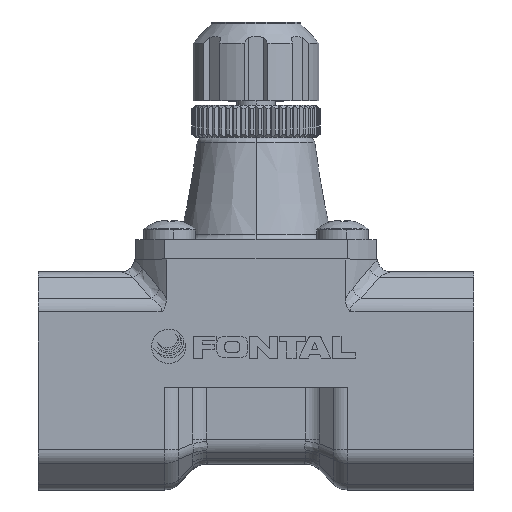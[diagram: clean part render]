
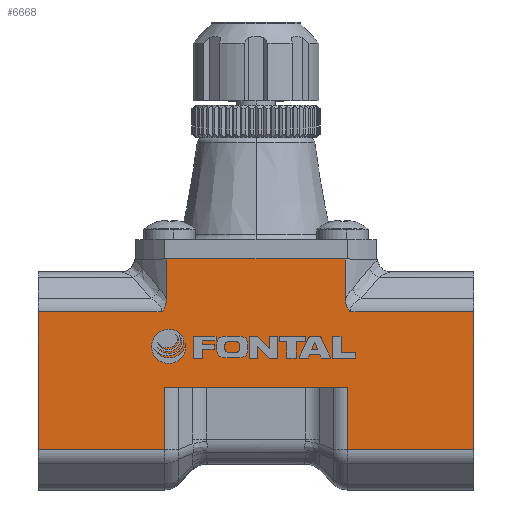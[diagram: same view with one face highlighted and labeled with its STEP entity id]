
A CAD part, top view. The second image highlights one B-rep face of the part: STEP entity #6668.
In plain terms, the highlighted planar face has unit normal (0, 0, 1).
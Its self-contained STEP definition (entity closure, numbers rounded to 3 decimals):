
#249 = LINE ( 'NONE', #10226, #14818 ) ;
#549 = LINE ( 'NONE', #3641, #1676 ) ;
#1056 = B_SPLINE_CURVE_WITH_KNOTS ( 'NONE', 3,
 ( #5082, #17772, #5019, #15030, #17892, #13412, #6263, #1950, #9252, #11977 ),
 .UNSPECIFIED., .F., .F.,
 ( 4, 2, 2, 2, 4 ),
 ( 0., 0., 0.001, 0.001, 0.002 ),
 .UNSPECIFIED. ) ;
#1220 = CARTESIAN_POINT ( 'NONE',  ( 34., 11.757, 17. ) ) ;
#1372 = DIRECTION ( 'NONE',  ( 1., 0., 0. ) ) ;
#1676 = VECTOR ( 'NONE', #2195, 1000. ) ;
#1950 = CARTESIAN_POINT ( 'NONE',  ( 14.017, 13.096, 17. ) ) ;
#1967 = ORIENTED_EDGE ( 'NONE', *, *, #3911, .T. ) ;
#2195 = DIRECTION ( 'NONE',  ( 0., 1., 0. ) ) ;
#2408 = CARTESIAN_POINT ( 'NONE',  ( 34., 11.757, 17. ) ) ;
#2474 = VERTEX_POINT ( 'NONE', #4490 ) ;
#2496 = CARTESIAN_POINT ( 'NONE',  ( -14.033, 13.098, 17. ) ) ;
#2523 = CARTESIAN_POINT ( 'NONE',  ( 13.964, 13.84, 17. ) ) ;
#2606 = DIRECTION ( 'NONE',  ( -1., 0., 0. ) ) ;
#2872 = LINE ( 'NONE', #1220, #17710 ) ;
#3099 = ORIENTED_EDGE ( 'NONE', *, *, #11670, .T. ) ;
#3510 = CARTESIAN_POINT ( 'NONE',  ( -13.964, 13.84, 17. ) ) ;
#3608 = EDGE_CURVE ( 'NONE', #14019, #2474, #8148, .T. ) ;
#3641 = CARTESIAN_POINT ( 'NONE',  ( 13.964, 10.26, 17. ) ) ;
#3800 = VERTEX_POINT ( 'NONE', #6195 ) ;
#3911 = EDGE_CURVE ( 'NONE', #3800, #16162, #16059, .T. ) ;
#4024 = LINE ( 'NONE', #14821, #5357 ) ;
#4321 = VECTOR ( 'NONE', #10240, 1000. ) ;
#4354 = VERTEX_POINT ( 'NONE', #18045 ) ;
#4378 = VECTOR ( 'NONE', #11718, 1000. ) ;
#4421 = DIRECTION ( 'NONE',  ( -1., 0., 0. ) ) ;
#4490 = CARTESIAN_POINT ( 'NONE',  ( 14.243, 0., 17. ) ) ;
#4626 = EDGE_CURVE ( 'NONE', #9403, #7832, #17146, .T. ) ;
#4672 = LINE ( 'NONE', #8960, #13624 ) ;
#4734 = FACE_OUTER_BOUND ( 'NONE', #10891, .T. ) ;
#4772 = VERTEX_POINT ( 'NONE', #11727 ) ;
#4825 = EDGE_CURVE ( 'NONE', #4354, #15117, #10155, .T. ) ;
#5019 = CARTESIAN_POINT ( 'NONE',  ( 14.547, 11.906, 17. ) ) ;
#5082 = CARTESIAN_POINT ( 'NONE',  ( 14.663, 11.757, 17. ) ) ;
#5357 = VECTOR ( 'NONE', #17804, 1000. ) ;
#5445 = CARTESIAN_POINT ( 'NONE',  ( -14.395, 12.142, 17. ) ) ;
#5566 = CARTESIAN_POINT ( 'NONE',  ( -13.978, 13.466, 17. ) ) ;
#5697 = EDGE_CURVE ( 'NONE', #16162, #15485, #17129, .T. ) ;
#5773 = CARTESIAN_POINT ( 'NONE',  ( -13.964, 10.26, 17. ) ) ;
#5866 = DIRECTION ( 'NONE',  ( 0., -1., 0. ) ) ;
#5940 = CARTESIAN_POINT ( 'NONE',  ( -14.243, -9.757, 17. ) ) ;
#6136 = EDGE_CURVE ( 'NONE', #9403, #4772, #249, .T. ) ;
#6153 = ORIENTED_EDGE ( 'NONE', *, *, #9270, .T. ) ;
#6195 = CARTESIAN_POINT ( 'NONE',  ( -34., 11.757, 17. ) ) ;
#6263 = CARTESIAN_POINT ( 'NONE',  ( 14.19, 12.561, 17. ) ) ;
#6491 = ORIENTED_EDGE ( 'NONE', *, *, #8526, .F. ) ;
#6668 = ADVANCED_FACE ( 'NONE', ( #4734 ), #12977, .T. ) ;
#6746 = CARTESIAN_POINT ( 'NONE',  ( -14.604, 11.83, 17. ) ) ;
#6956 = ORIENTED_EDGE ( 'NONE', *, *, #11627, .T. ) ;
#6996 = CARTESIAN_POINT ( 'NONE',  ( -14.443, 12.062, 17. ) ) ;
#7089 = EDGE_CURVE ( 'NONE', #7499, #3800, #18198, .T. ) ;
#7499 = VERTEX_POINT ( 'NONE', #17022 ) ;
#7620 = CARTESIAN_POINT ( 'NONE',  ( 14.663, 11.757, 17. ) ) ;
#7832 = VERTEX_POINT ( 'NONE', #3510 ) ;
#7920 = ORIENTED_EDGE ( 'NONE', *, *, #3608, .T. ) ;
#8148 = LINE ( 'NONE', #11780, #4378 ) ;
#8240 = CARTESIAN_POINT ( 'NONE',  ( -14.547, 11.906, 17. ) ) ;
#8267 = VECTOR ( 'NONE', #4421, 1000. ) ;
#8365 = ORIENTED_EDGE ( 'NONE', *, *, #10835, .T. ) ;
#8423 = CARTESIAN_POINT ( 'NONE',  ( -13.964, 13.84, 17. ) ) ;
#8526 = EDGE_CURVE ( 'NONE', #14807, #15117, #4024, .T. ) ;
#8680 = CARTESIAN_POINT ( 'NONE',  ( 0., 0., 17. ) ) ;
#8738 = ORIENTED_EDGE ( 'NONE', *, *, #4825, .T. ) ;
#8767 = CARTESIAN_POINT ( 'NONE',  ( 34., 11.757, 17. ) ) ;
#8788 = CARTESIAN_POINT ( 'NONE',  ( 34., -9.757, 17. ) ) ;
#8960 = CARTESIAN_POINT ( 'NONE',  ( -14.243, 0., 17. ) ) ;
#9045 = EDGE_CURVE ( 'NONE', #14807, #16143, #2872, .T. ) ;
#9252 = CARTESIAN_POINT ( 'NONE',  ( 13.964, 13.464, 17. ) ) ;
#9270 = EDGE_CURVE ( 'NONE', #2474, #4354, #13860, .T. ) ;
#9328 = EDGE_CURVE ( 'NONE', #15485, #14019, #4672, .T. ) ;
#9403 = VERTEX_POINT ( 'NONE', #11999 ) ;
#9499 = CARTESIAN_POINT ( 'NONE',  ( -34., 13., 17. ) ) ;
#9741 = ORIENTED_EDGE ( 'NONE', *, *, #9045, .T. ) ;
#10155 = LINE ( 'NONE', #17712, #13085 ) ;
#10226 = CARTESIAN_POINT ( 'NONE',  ( -19., 20., 17. ) ) ;
#10240 = DIRECTION ( 'NONE',  ( 1., 0., 0. ) ) ;
#10336 = ORIENTED_EDGE ( 'NONE', *, *, #4626, .T. ) ;
#10398 = VECTOR ( 'NONE', #10828, 1000. ) ;
#10542 = DIRECTION ( 'NONE',  ( 0., 1., 0. ) ) ;
#10828 = DIRECTION ( 'NONE',  ( 0., -1., 0. ) ) ;
#10835 = EDGE_CURVE ( 'NONE', #7832, #7499, #12110, .T. ) ;
#10891 = EDGE_LOOP ( 'NONE', ( #9741, #3099, #6956, #15484, #10336, #8365, #13184, #1967, #12856, #11229, #7920, #6153, #8738, #6491 ) ) ;
#11083 = CARTESIAN_POINT ( 'NONE',  ( -13.964, 13.652, 17. ) ) ;
#11229 = ORIENTED_EDGE ( 'NONE', *, *, #9328, .T. ) ;
#11412 = DIRECTION ( 'NONE',  ( 0., -1., 0. ) ) ;
#11607 = VECTOR ( 'NONE', #5866, 1000. ) ;
#11627 = EDGE_CURVE ( 'NONE', #13179, #4772, #549, .T. ) ;
#11670 = EDGE_CURVE ( 'NONE', #16143, #13179, #1056, .T. ) ;
#11683 = DIRECTION ( 'NONE',  ( 1., 0., 0. ) ) ;
#11718 = DIRECTION ( 'NONE',  ( 1., 0., 0. ) ) ;
#11727 = CARTESIAN_POINT ( 'NONE',  ( 13.964, 20., 17. ) ) ;
#11780 = CARTESIAN_POINT ( 'NONE',  ( 34., 0., 17. ) ) ;
#11977 = CARTESIAN_POINT ( 'NONE',  ( 13.964, 13.84, 17. ) ) ;
#11999 = CARTESIAN_POINT ( 'NONE',  ( -13.964, 20., 17. ) ) ;
#12110 = B_SPLINE_CURVE_WITH_KNOTS ( 'NONE', 3,
 ( #8423, #11083, #5566, #2496, #15413, #14023, #18518, #5445, #6996, #8240, #6746, #12709 ),
 .UNSPECIFIED., .F., .F.,
 ( 4, 2, 2, 2, 2, 4 ),
 ( 0., 0.001, 0.001, 0.002, 0.002, 0.002 ),
 .UNSPECIFIED. ) ;
#12709 = CARTESIAN_POINT ( 'NONE',  ( -14.663, 11.757, 17. ) ) ;
#12856 = ORIENTED_EDGE ( 'NONE', *, *, #5697, .T. ) ;
#12977 = PLANE ( 'NONE',  #16805 ) ;
#13007 = CARTESIAN_POINT ( 'NONE',  ( 14.243, -9.757, 17. ) ) ;
#13040 = DIRECTION ( 'NONE',  ( 0., 0., 1. ) ) ;
#13085 = VECTOR ( 'NONE', #15031, 1000. ) ;
#13158 = CARTESIAN_POINT ( 'NONE',  ( -14.243, 0., 17. ) ) ;
#13179 = VERTEX_POINT ( 'NONE', #2523 ) ;
#13184 = ORIENTED_EDGE ( 'NONE', *, *, #7089, .T. ) ;
#13412 = CARTESIAN_POINT ( 'NONE',  ( 14.263, 12.387, 17. ) ) ;
#13624 = VECTOR ( 'NONE', #10542, 1000. ) ;
#13860 = LINE ( 'NONE', #13007, #11607 ) ;
#14019 = VERTEX_POINT ( 'NONE', #13158 ) ;
#14023 = CARTESIAN_POINT ( 'NONE',  ( -14.191, 12.559, 17. ) ) ;
#14193 = VECTOR ( 'NONE', #11412, 1000. ) ;
#14807 = VERTEX_POINT ( 'NONE', #2408 ) ;
#14818 = VECTOR ( 'NONE', #11683, 1000. ) ;
#14821 = CARTESIAN_POINT ( 'NONE',  ( 34., 13., 17. ) ) ;
#14827 = CARTESIAN_POINT ( 'NONE',  ( -34., -9.757, 17. ) ) ;
#15030 = CARTESIAN_POINT ( 'NONE',  ( 14.444, 12.061, 17. ) ) ;
#15031 = DIRECTION ( 'NONE',  ( 1., 0., 0. ) ) ;
#15081 = CARTESIAN_POINT ( 'NONE',  ( 34., -9.757, 17. ) ) ;
#15117 = VERTEX_POINT ( 'NONE', #15081 ) ;
#15413 = CARTESIAN_POINT ( 'NONE',  ( -14.075, 12.915, 17. ) ) ;
#15484 = ORIENTED_EDGE ( 'NONE', *, *, #6136, .F. ) ;
#15485 = VERTEX_POINT ( 'NONE', #5940 ) ;
#16059 = LINE ( 'NONE', #9499, #10398 ) ;
#16143 = VERTEX_POINT ( 'NONE', #7620 ) ;
#16162 = VERTEX_POINT ( 'NONE', #14827 ) ;
#16805 = AXIS2_PLACEMENT_3D ( 'NONE', #8680, #13040, #1372 ) ;
#17022 = CARTESIAN_POINT ( 'NONE',  ( -14.663, 11.757, 17. ) ) ;
#17129 = LINE ( 'NONE', #8788, #4321 ) ;
#17146 = LINE ( 'NONE', #5773, #14193 ) ;
#17710 = VECTOR ( 'NONE', #2606, 1000. ) ;
#17712 = CARTESIAN_POINT ( 'NONE',  ( 34., -9.757, 17. ) ) ;
#17772 = CARTESIAN_POINT ( 'NONE',  ( 14.604, 11.83, 17. ) ) ;
#17804 = DIRECTION ( 'NONE',  ( 0., -1., 0. ) ) ;
#17892 = CARTESIAN_POINT ( 'NONE',  ( 14.396, 12.141, 17. ) ) ;
#18045 = CARTESIAN_POINT ( 'NONE',  ( 14.243, -9.757, 17. ) ) ;
#18198 = LINE ( 'NONE', #8767, #8267 ) ;
#18518 = CARTESIAN_POINT ( 'NONE',  ( -14.263, 12.387, 17. ) ) ;
